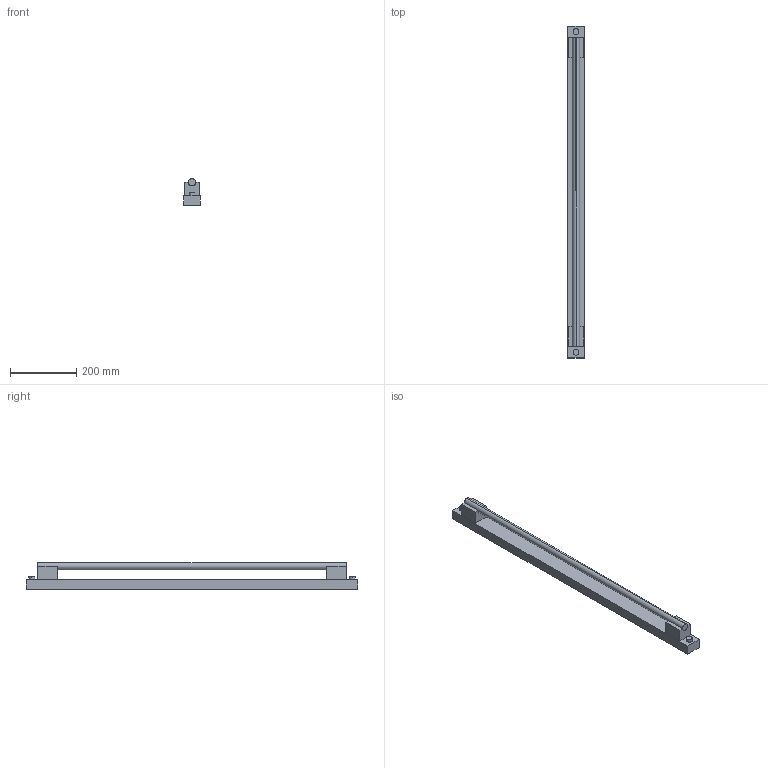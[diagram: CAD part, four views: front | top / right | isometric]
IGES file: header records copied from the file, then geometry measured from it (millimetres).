
Start section: SolidWorks IGES file using analytic representation for surfaces
Global section: file name: F:\燠隴矨\3D\2025-9\Caelum Light Bar Wall Lamp-H100cm.IGS,15; native system: HSolidWorks 2022; preprocessor: SolidWorks 2022; author: MyPC; date: 250930.110949; units: millimetre
Bounding box: 50 x 1000 x 81 mm (x, y, z)
Surface area: 298019.7 mm2 (no closed solid volume)
Topology: 0 solids, 0 shells, 39 faces, 396 edges, 396 vertices
Faces by surface type: bspline 31, revolution 8
